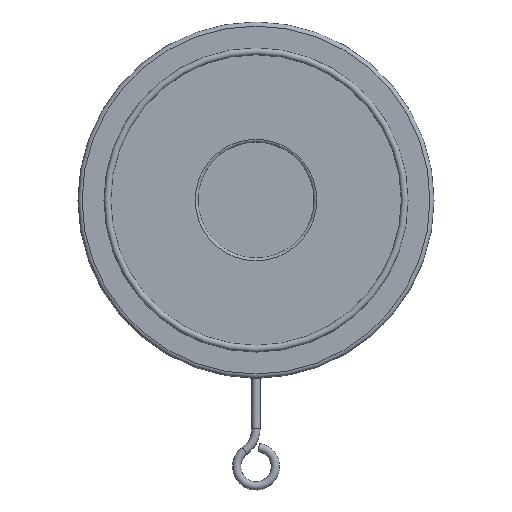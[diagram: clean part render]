
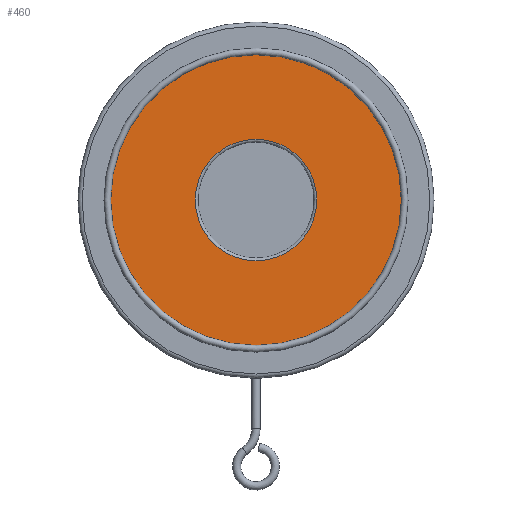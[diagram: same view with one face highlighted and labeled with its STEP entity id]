
A CAD part, top view. The second image highlights one B-rep face of the part: STEP entity #460.
In plain terms, the highlighted planar face has unit normal (0, 0, 1).
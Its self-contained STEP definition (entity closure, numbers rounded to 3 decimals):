
#460 = ADVANCED_FACE( '', ( #1058, #1059 ), #1060, .F. );
#1058 = FACE_BOUND( '', #1802, .T. );
#1059 = FACE_OUTER_BOUND( '', #1803, .T. );
#1060 = PLANE( '', #1804 );
#1802 = EDGE_LOOP( '', ( #3537 ) );
#1803 = EDGE_LOOP( '', ( #3538 ) );
#1804 = AXIS2_PLACEMENT_3D( '', #3539, #3540, #3541 );
#3537 = ORIENTED_EDGE( '', *, *, #5226, .T. );
#3538 = ORIENTED_EDGE( '', *, *, #5012, .T. );
#3539 = CARTESIAN_POINT( '', ( 0., 0., 7. ) );
#3540 = DIRECTION( '', ( 0., 0., -1. ) );
#3541 = DIRECTION( '', ( -1., 0., 0. ) );
#5012 = EDGE_CURVE( '', #5978, #5978, #5979, .T. );
#5226 = EDGE_CURVE( '', #6282, #6282, #6283, .T. );
#5978 = VERTEX_POINT( '', #8172 );
#5979 = CIRCLE( '', #8173, 52.625 );
#6282 = VERTEX_POINT( '', #9090 );
#6283 = CIRCLE( '', #9091, 22. );
#8172 = CARTESIAN_POINT( '', ( 52.625, 0., 7. ) );
#8173 = AXIS2_PLACEMENT_3D( '', #9807, #9808, #9809 );
#9090 = CARTESIAN_POINT( '', ( -22., 0., 7. ) );
#9091 = AXIS2_PLACEMENT_3D( '', #9904, #9905, #9906 );
#9807 = CARTESIAN_POINT( '', ( 0., 0., 7. ) );
#9808 = DIRECTION( '', ( 0., 0., 1. ) );
#9809 = DIRECTION( '', ( 1., 0., 0. ) );
#9904 = CARTESIAN_POINT( '', ( 0., 0., 7. ) );
#9905 = DIRECTION( '', ( 0., 0., -1. ) );
#9906 = DIRECTION( '', ( -1., 0., 0. ) );
